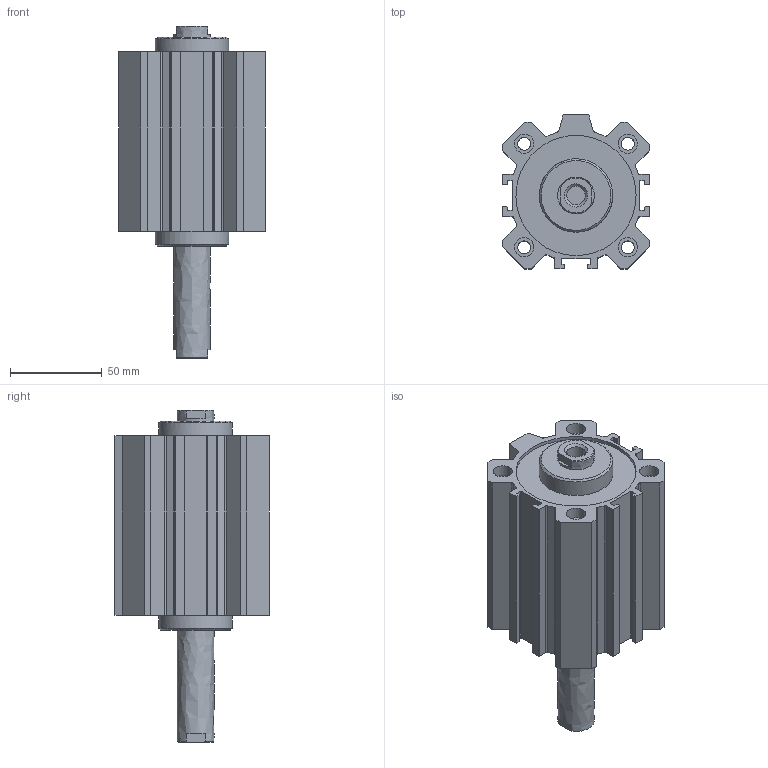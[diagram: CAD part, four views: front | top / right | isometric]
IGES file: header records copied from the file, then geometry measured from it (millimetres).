
Global section: file name: 1514_63_0055; native system: Autodesk Inventor 2014; preprocessor: unknown; author: A. Manieri; date: 20160824.140256; units: millimetre
Bounding box: 80 x 84 x 181 mm (x, y, z)
Volume: 382035.5 mm3; surface area: 106405.8 mm2
Topology: 2 solids, 2 shells, 178 faces, 482 edges, 328 vertices
Faces by surface type: bspline 178
